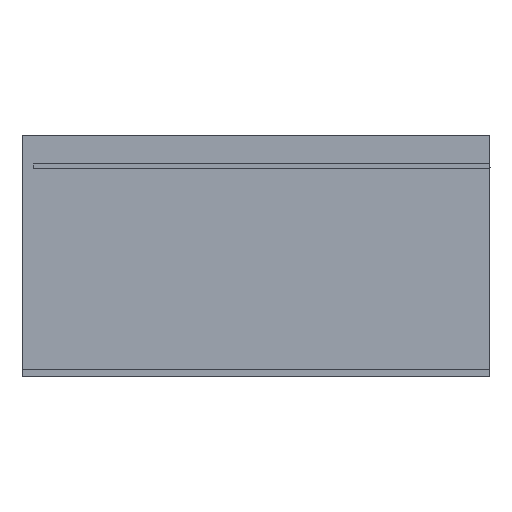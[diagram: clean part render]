
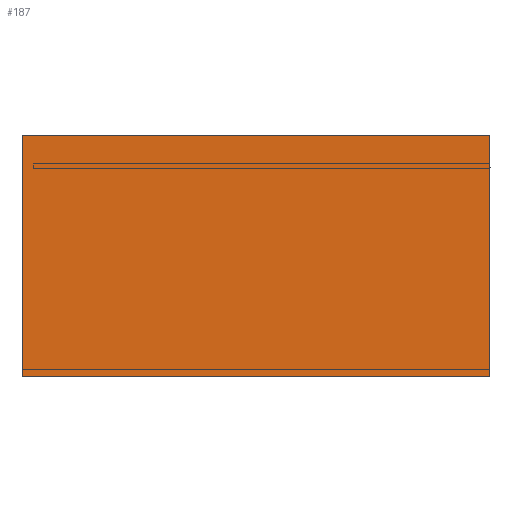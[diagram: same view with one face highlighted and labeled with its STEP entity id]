
A CAD part, left-side view. The second image highlights one B-rep face of the part: STEP entity #187.
In plain terms, the highlighted planar face has unit normal (-1, 0, 0).
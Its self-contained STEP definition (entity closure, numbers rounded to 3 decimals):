
#39=DIRECTION('',(0.,0.,-1.));
#40=VECTOR('',#39,1030.);
#41=CARTESIAN_POINT('',(-30.,0.,1000.));
#42=LINE('',#41,#40);
#63=DIRECTION('',(0.,0.,-1.));
#64=VECTOR('',#63,1030.);
#65=CARTESIAN_POINT('',(-30.,2000.,1000.));
#66=LINE('',#65,#64);
#67=DIRECTION('',(0.,1.,0.));
#68=VECTOR('',#67,2000.);
#69=CARTESIAN_POINT('',(-30.,0.,1000.));
#70=LINE('',#69,#68);
#75=DIRECTION('',(0.,1.,0.));
#76=VECTOR('',#75,2000.);
#77=CARTESIAN_POINT('',(-30.,0.,-30.));
#78=LINE('',#77,#76);
#92=CARTESIAN_POINT('',(-30.,2000.,1000.));
#94=VERTEX_POINT('',#92);
#97=CARTESIAN_POINT('',(-30.,0.,-30.));
#99=VERTEX_POINT('',#97);
#101=CARTESIAN_POINT('',(-30.,2000.,-30.));
#102=VERTEX_POINT('',#101);
#105=CARTESIAN_POINT('',(-30.,0.,1000.));
#106=VERTEX_POINT('',#105);
#174=CARTESIAN_POINT('',(-30.,2000.,-30.));
#175=DIRECTION('',(1.,0.,0.));
#176=DIRECTION('',(0.,0.,-1.));
#177=AXIS2_PLACEMENT_3D('',#174,#175,#176);
#178=PLANE('',#177);
#179=ORIENTED_EDGE('',*,*,#139,.T.);
#181=ORIENTED_EDGE('',*,*,#180,.T.);
#183=ORIENTED_EDGE('',*,*,#182,.F.);
#184=ORIENTED_EDGE('',*,*,#166,.F.);
#185=EDGE_LOOP('',(#179,#181,#183,#184));
#186=FACE_OUTER_BOUND('',#185,.F.);
#139=EDGE_CURVE('',#106,#99,#42,.T.);
#166=EDGE_CURVE('',#106,#94,#70,.T.);
#180=EDGE_CURVE('',#99,#102,#78,.T.);
#182=EDGE_CURVE('',#94,#102,#66,.T.);
#187=ADVANCED_FACE('',(#186),#178,.F.);
